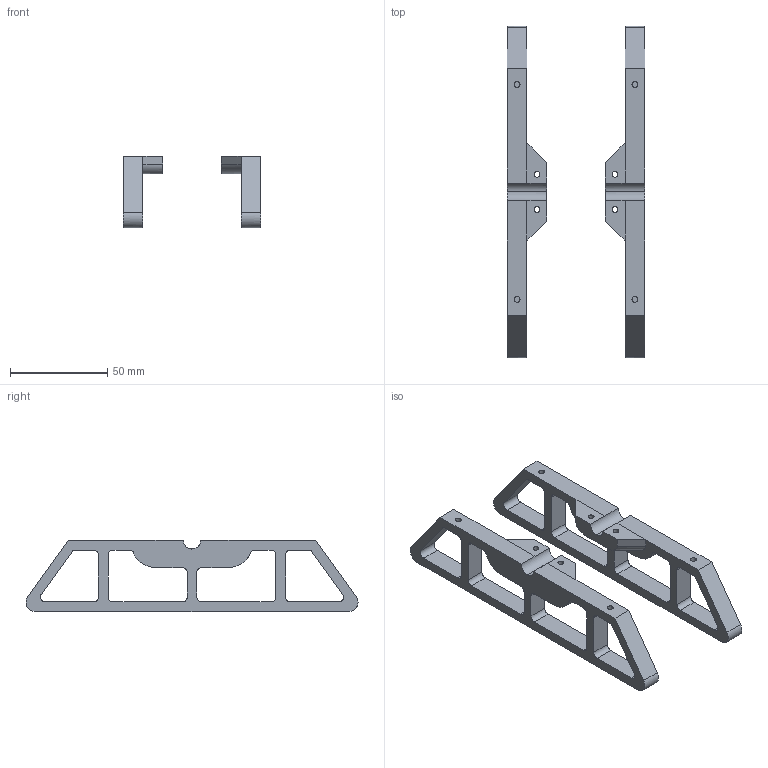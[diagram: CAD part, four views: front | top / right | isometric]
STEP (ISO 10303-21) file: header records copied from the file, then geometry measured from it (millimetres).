
FILE_DESCRIPTION(/* description */ (''),/* implementation_level */ '2;1');
FILE_NAME(/* name */ '240803-DIYUTM-Legs',/* time_stamp */ '2024-08-03T10:04:51+02:00',/* author */ (''),/* organization */ (''),/* preprocessor_version */ 'ST-DEVELOPER v16.5',/* originating_system */ 'Rhino 7.37',/* authorisation */ '');
FILE_SCHEMA (('CONFIG_CONTROL_DESIGN'));
Length unit declared in the file: millimetre
Products named in the file (1): Document
Bounding box: 70.5 x 170.46 x 36.69 mm (x, y, z)
Volume: 59126 mm3; surface area: 29629.6 mm2
Topology: 2 solids, 2 shells, 154 faces, 434 edges, 288 vertices
Faces by surface type: cylinder 80, plane 70, bspline 4
Entity records: 5606 total; most frequent: CARTESIAN_POINT 2796, ORIENTED_EDGE 868, EDGE_CURVE 434, VERTEX_POINT 288, EDGE_LOOP 190, ADVANCED_FACE 154, FACE_OUTER_BOUND 154, DIRECTION 154
